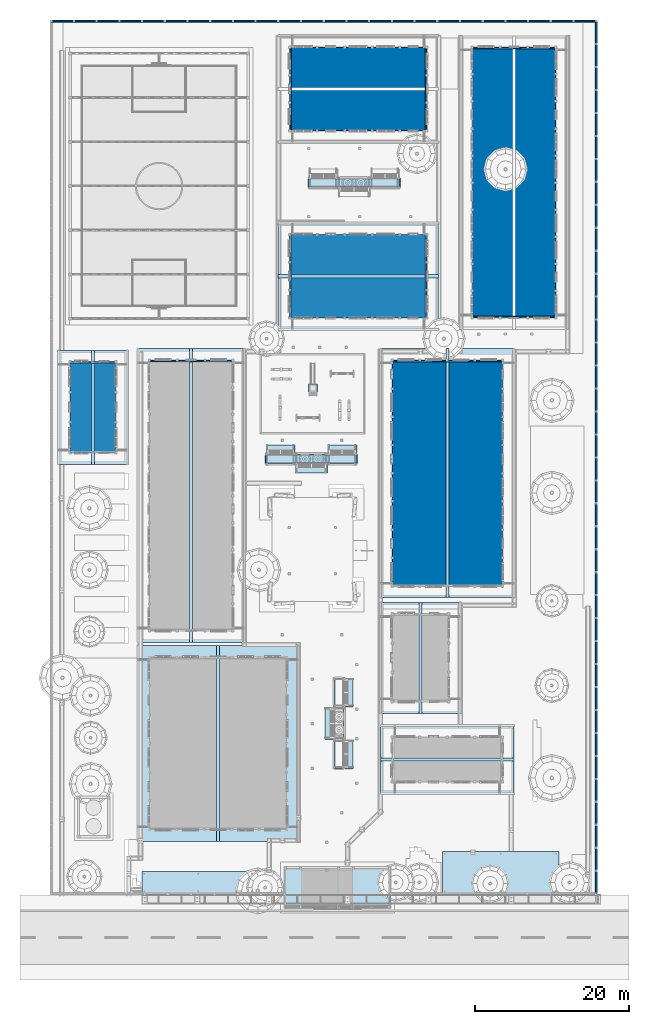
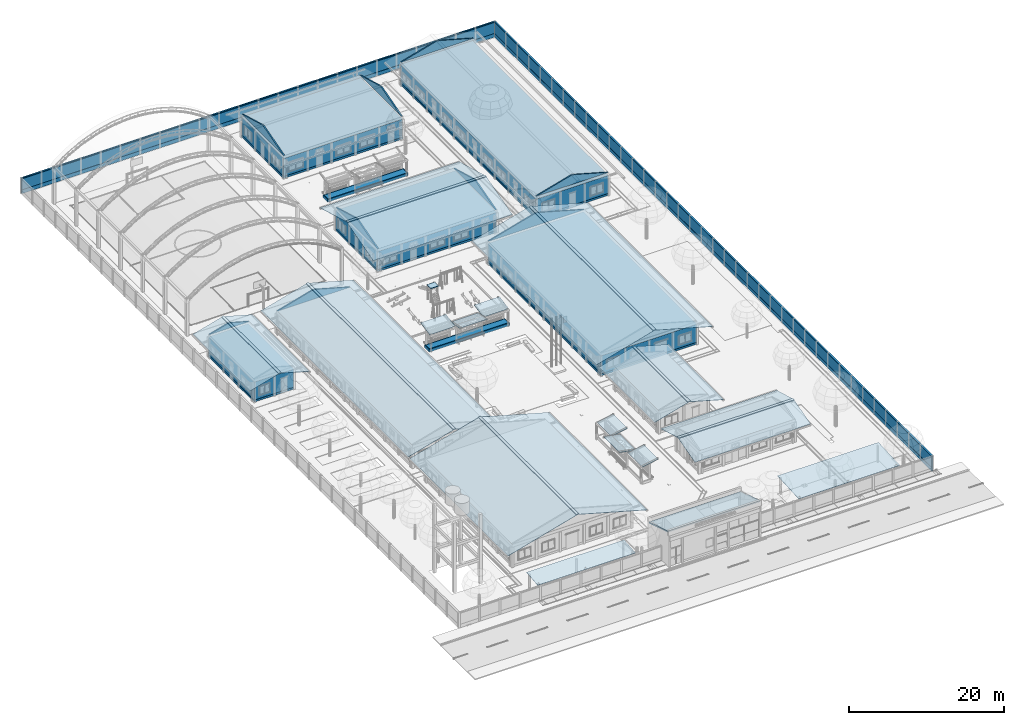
# One storey, part 40 of 177: 29 walls, 24 roofs.
"""IFC4 building model written with IfcOpenShell, lengths in metres."""

import ifcopenshell
import ifcopenshell.guid

model = None  # the IFC model being written
_history = None  # IfcOwnerHistory: only IFC2X3 demands one
_inside = {}  # id of a spatial element -> (the spatial element, [elements in it])
_under = {}  # id of a project, library or spatial element -> (it, [spatial elements below it])
_declared = {}  # id of a project -> (the project, [libraries it declares])
_typed = {}  # id of a type object -> (the type object, [elements of that type])
_made_of = {}  # id of a material, layer set ... -> (it, [elements and type objects made of it])


def new_model(schema):
    """Start an empty IFC model of exactly this schema.

    Asked for "IFC4X3", IfcOpenShell would pick the latest addendum, in which some entities
    have other attributes; the version numbers below select the first issue.
    IFC2X3 requires an IfcOwnerHistory on every rooted entity: one is made here for all.
    """
    global model, _history
    if schema == "IFC4X3":
        model = ifcopenshell.file(schema_version=(4, 3, 0, 0))
    else:
        model = ifcopenshell.file(schema=schema)
    _inside.clear()
    _under.clear()
    _declared.clear()
    _typed.clear()
    _made_of.clear()
    _history = None
    if model.schema == "IFC2X3":
        org = make("IfcOrganization", Name="unknown")
        user = make(
            "IfcPersonAndOrganization",
            ThePerson=make("IfcPerson", FamilyName="unknown"),
            TheOrganization=org,
        )
        app = make(
            "IfcApplication",
            ApplicationDeveloper=org,
            Version="unknown",
            ApplicationFullName="unknown",
            ApplicationIdentifier="unknown",
        )
        _history = make(
            "IfcOwnerHistory",
            OwningUser=user,
            OwningApplication=app,
            ChangeAction="ADDED",
            CreationDate=0,
        )
    return model


def make(cls, **values):
    """One entity of the class cls with the attributes given. An attribute that is None is left unset."""
    return model.create_entity(
        cls, **{name: value for name, value in values.items() if value is not None}
    )


def rooted(cls, **values):
    """An entity with a GlobalId (a new one), such as an element, a storey or a relation."""
    return make(cls, GlobalId=ifcopenshell.guid.new(), OwnerHistory=_history, **values)


def si_unit(unit_type, name, prefix=None):
    """IfcSIUnit, for example si_unit("LENGTHUNIT", "METRE", prefix="MILLI")."""
    return make("IfcSIUnit", UnitType=unit_type, Prefix=prefix, Name=name)


def assignment(units):
    """IfcUnitAssignment: the units of a project."""
    return None if units is None else make("IfcUnitAssignment", Units=units)


def point(xyz):
    """IfcCartesianPoint."""
    return None if xyz is None else make("IfcCartesianPoint", Coordinates=xyz)


def direction(xyz):
    """IfcDirection."""
    return None if xyz is None else make("IfcDirection", DirectionRatios=xyz)


def frame(location, z_axis=None, x_axis=None):
    """IfcAxis2Placement3D, a coordinate frame: its origin and axes. An axis left out is left unset."""
    return make(
        "IfcAxis2Placement3D",
        Location=point(location),
        Axis=direction(z_axis),
        RefDirection=direction(x_axis),
    )


def origin():
    """The frame at (0, 0, 0) with its axes left unset."""
    return frame((0.0, 0.0, 0.0))


def origin_with_axes():
    """The frame at (0, 0, 0) with the z axis (0, 0, 1) and the x axis (1, 0, 0) written out."""
    return frame((0.0, 0.0, 0.0), z_axis=(0.0, 0.0, 1.0), x_axis=(1.0, 0.0, 0.0))


def place(relative_to, where):
    """IfcLocalPlacement: puts the frame where relative to a parent placement (None: the world)."""
    return make(
        "IfcLocalPlacement", PlacementRelTo=relative_to, RelativePlacement=where
    )


def context(
    kind, dimensions, precision=None, world=None, true_north=None, identifier=None
):
    """IfcGeometricRepresentationContext, for example the 3D "Model" context."""
    return make(
        "IfcGeometricRepresentationContext",
        ContextIdentifier=identifier,
        ContextType=kind,
        CoordinateSpaceDimension=dimensions,
        Precision=precision,
        WorldCoordinateSystem=world,
        TrueNorth=true_north,
    )


def subcontext(parent, identifier, kind, view, scale=None):
    """IfcGeometricRepresentationSubContext, for example "Body" below "Model"."""
    return make(
        "IfcGeometricRepresentationSubContext",
        ContextIdentifier=identifier,
        ContextType=kind,
        ParentContext=parent,
        TargetScale=scale,
        TargetView=view,
    )


def project(units=None, contexts=None):
    """IfcProject with its units and contexts."""
    return rooted(
        "IfcProject",
        Name="project",
        RepresentationContexts=contexts,
        UnitsInContext=assignment(units),
    )


def spatial(cls, under=None, at=None, **own):
    """A site, building, storey or space (cls), placed at a placement, below another one or the project."""
    s = rooted(cls, ObjectPlacement=at, **own)
    if under is not None:
        _under.setdefault(under.id(), (under, []))[1].append(s)
    return s


def point_list(points):
    """IfcCartesianPointList2D or 3D."""
    cls = (
        "IfcCartesianPointList2D" if len(points[0]) == 2 else "IfcCartesianPointList3D"
    )
    return make(cls, CoordList=points)


def triangles(points, corners, closed=None, point_numbers=None):
    """IfcTriangulatedFaceSet: each triangle names its three corners, points numbered from 1."""
    return make(
        "IfcTriangulatedFaceSet",
        Coordinates=point_list(points),
        Closed=closed,
        CoordIndex=corners,
        PnIndex=point_numbers,
    )


def shape(context_of_items, identifier, shape_type, items):
    """IfcShapeRepresentation: the items that make up one representation, for example the "Body"."""
    return make(
        "IfcShapeRepresentation",
        ContextOfItems=context_of_items,
        RepresentationIdentifier=identifier,
        RepresentationType=shape_type,
        Items=items,
    )


def made_of(thing, what):
    """Note that an element or type object is made of a material, layer set ...; save() writes the relation."""
    if what is not None:
        _made_of.setdefault(what.id(), (what, []))[1].append(thing)
    return thing


def element(
    cls,
    number,
    at=None,
    inside=None,
    cuts=None,
    type_object=None,
    material=None,
    context=None,
    identifier="Body",
    shape_type=None,
    held_by="IfcProductDefinitionShape",
    body=None,
    shapes=None,
    **own,
):
    """One element of the class cls, such as IfcWall. Its Tag is "e" and its number.

    at: its placement. inside: the storey or other place that contains it. cuts: it is an
    opening in that element (IfcRelVoidsElement). A single representation is given by context,
    identifier, shape_type and body (its items); several are given by shapes. held_by: the class
    of the entity that holds the representations. save() writes the other relations.
    """
    e = rooted(cls, Tag="e%d" % number, ObjectPlacement=at, **own)
    if body is not None:
        shapes = [shape(context, identifier, shape_type, body)]
    if shapes is not None:
        e.Representation = make(held_by, Representations=shapes)
    if inside is not None:
        _inside.setdefault(inside.id(), (inside, []))[1].append(e)
    if cuts is not None:
        rooted(
            "IfcRelVoidsElement", RelatingBuildingElement=cuts, RelatedOpeningElement=e
        )
    if type_object is not None:
        _typed.setdefault(type_object.id(), (type_object, []))[1].append(e)
    return made_of(e, material)


def aggregate(whole, parts):
    """IfcRelAggregates: a whole, such as a stair, and the parts it consists of."""
    return rooted("IfcRelAggregates", RelatingObject=whole, RelatedObjects=parts)


def save(model, path):
    """Write the relations noted so far, then the file.

    IfcRelAggregates (storeys below a building ...), IfcRelContainedInSpatialStructure (elements
    in a storey), IfcRelDefinesByType, IfcRelAssociatesMaterial and IfcRelDeclares: one each for
    every whole, place, type object, material and project.
    """
    for whole, parts in _under.values():
        aggregate(whole, parts)
    for where, things in _inside.values():
        rooted(
            "IfcRelContainedInSpatialStructure",
            RelatedElements=things,
            RelatingStructure=where,
        )
    for kind, things in _typed.values():
        rooted("IfcRelDefinesByType", RelatedObjects=things, RelatingType=kind)
    for what, things in _made_of.values():
        rooted("IfcRelAssociatesMaterial", RelatedObjects=things, RelatingMaterial=what)
    for by, libraries in _declared.values():
        rooted("IfcRelDeclares", RelatingContext=by, RelatedDefinitions=libraries)
    model.write(path)


model = new_model("IFC4")

# Units and contexts
model_context = context("Model", 3, precision=1e-05, world=origin_with_axes())
body_context = subcontext(model_context, "Body", "Model", "MODEL_VIEW")
ifc_project = project(units=[si_unit("LENGTHUNIT", "METRE"), si_unit("AREAUNIT", "SQUARE_METRE"), si_unit("VOLUMEUNIT", "CUBIC_METRE"), si_unit("PLANEANGLEUNIT", "RADIAN")], contexts=[model_context])

# Site, building, storey
site_placement = place(None, origin_with_axes())
site = spatial("IfcSite", under=ifc_project, at=site_placement, Name="Predio Los Mangos - Morales, San Martín", CompositionType="ELEMENT")
building_placement = place(site_placement, origin())
building = spatial("IfcBuilding", under=site, at=building_placement, Name="Hogar de Refugio Temporal", CompositionType="ELEMENT")
storey_placement = place(building_placement, origin())
storey = spatial("IfcBuildingStorey", under=building, at=storey_placement, Name="NIVEL 1 (NPT +0.00)", CompositionType="ELEMENT", Elevation=0.0)

# Walls
wall_1_placement = place(storey_placement, origin())
element("IfcWall", 1, at=wall_1_placement, inside=storey, Name="E-04_hastial", ObjectType="Muro", PredefinedType="NOTDEFINED", context=body_context, shape_type="Tessellation", body=[
    triangles([(13.8, 87.2, 3.75), (19.2, 87.2, 5.262), (24.6, 87.2, 3.75), (13.8, 87.0, 3.75), (19.2, 87.0, 5.262), (24.6, 87.0, 3.75)], [[1, 2, 3], [4, 6, 5], [1, 4, 5], [1, 5, 2], [2, 5, 6], [2, 6, 3], [1, 3, 6], [1, 6, 4]]),
])
wall_2_placement = place(storey_placement, origin())
element("IfcWall", 2, at=wall_2_placement, inside=storey, Name="E-05_muro", ObjectType="Muro", PredefinedType="NOTDEFINED", context=body_context, shape_type="Tessellation", body=[
    triangles([(45.3, 57.9, 0.15), (59.6, 57.9, 0.15), (59.6, 87.2, 0.15), (45.3, 87.2, 0.15), (45.3, 57.9, 3.3), (59.6, 57.9, 3.3), (59.6, 87.2, 3.3), (45.3, 87.2, 3.3)], [[1, 4, 3], [1, 3, 2], [5, 6, 7], [5, 7, 8], [1, 2, 6], [1, 6, 5], [2, 3, 7], [2, 7, 6], [3, 4, 8], [3, 8, 7], [4, 1, 5], [4, 5, 8]]),
])
wall_3_placement = place(storey_placement, origin())
element("IfcWall", 3, at=wall_3_placement, inside=storey, Name="E-05_zocalo", ObjectType="Muro", PredefinedType="NOTDEFINED", context=body_context, shape_type="Tessellation", body=[
    triangles([(45.28, 57.88, 0.15), (59.62, 57.88, 0.15), (59.62, 87.22, 0.15), (45.28, 87.22, 0.15), (45.28, 57.88, 0.45), (59.62, 57.88, 0.45), (59.62, 87.22, 0.45), (45.28, 87.22, 0.45)], [[1, 4, 3], [1, 3, 2], [5, 6, 7], [5, 7, 8], [1, 2, 6], [1, 6, 5], [2, 3, 7], [2, 7, 6], [3, 4, 8], [3, 8, 7], [4, 1, 5], [4, 5, 8]]),
])
wall_4_placement = place(storey_placement, origin())
element("IfcWall", 4, at=wall_4_placement, inside=storey, Name="E-05_hastial", ObjectType="Muro", PredefinedType="NOTDEFINED", context=body_context, shape_type="Tessellation", body=[
    triangles([(45.3, 87.2, 3.75), (52.45, 87.2, 5.752), (59.6, 87.2, 3.75), (45.3, 87.0, 3.75), (52.45, 87.0, 5.752), (59.6, 87.0, 3.75)], [[1, 2, 3], [4, 6, 5], [1, 4, 5], [1, 5, 2], [2, 5, 6], [2, 6, 3], [1, 3, 6], [1, 6, 4]]),
])
wall_5_placement = place(storey_placement, origin())
element("IfcWall", 5, at=wall_5_placement, inside=storey, Name="E-06_muro", ObjectType="Muro", PredefinedType="NOTDEFINED", context=body_context, shape_type="Tessellation", body=[
    triangles([(32.0, 92.7, 0.15), (49.8, 92.7, 0.15), (49.8, 103.5, 0.15), (32.0, 103.5, 0.15), (32.0, 92.7, 3.3), (49.8, 92.7, 3.3), (49.8, 103.5, 3.3), (32.0, 103.5, 3.3)], [[1, 4, 3], [1, 3, 2], [5, 6, 7], [5, 7, 8], [1, 2, 6], [1, 6, 5], [2, 3, 7], [2, 7, 6], [3, 4, 8], [3, 8, 7], [4, 1, 5], [4, 5, 8]]),
])
wall_6_placement = place(storey_placement, origin())
element("IfcWall", 6, at=wall_6_placement, inside=storey, Name="E-06_zocalo", ObjectType="Muro", PredefinedType="NOTDEFINED", context=body_context, shape_type="Tessellation", body=[
    triangles([(31.98, 92.68, 0.15), (49.82, 92.68, 0.15), (49.82, 103.52, 0.15), (31.98, 103.52, 0.15), (31.98, 92.68, 0.45), (49.82, 92.68, 0.45), (49.82, 103.52, 0.45), (31.98, 103.52, 0.45)], [[1, 4, 3], [1, 3, 2], [5, 6, 7], [5, 7, 8], [1, 2, 6], [1, 6, 5], [2, 3, 7], [2, 7, 6], [3, 4, 8], [3, 8, 7], [4, 1, 5], [4, 5, 8]]),
])
wall_7_placement = place(storey_placement, origin())
element("IfcWall", 7, at=wall_7_placement, inside=storey, Name="E-06_hastial", ObjectType="Muro", PredefinedType="NOTDEFINED", context=body_context, shape_type="Tessellation", body=[
    triangles([(32.0, 92.7, 3.75), (32.0, 98.1, 5.262), (32.0, 103.5, 3.75), (32.2, 92.7, 3.75), (32.2, 98.1, 5.262), (32.2, 103.5, 3.75)], [[1, 2, 3], [4, 6, 5], [1, 4, 5], [1, 5, 2], [2, 5, 6], [2, 6, 3], [1, 3, 6], [1, 6, 4]]),
])
wall_8_placement = place(storey_placement, origin())
element("IfcWall", 8, at=wall_8_placement, inside=storey, Name="E-06_hastial", ObjectType="Muro", PredefinedType="NOTDEFINED", context=body_context, shape_type="Tessellation", body=[
    triangles([(49.8, 92.7, 3.75), (49.8, 98.1, 5.262), (49.8, 103.5, 3.75), (49.6, 92.7, 3.75), (49.6, 98.1, 5.262), (49.6, 103.5, 3.75)], [[1, 2, 3], [4, 6, 5], [1, 4, 5], [1, 5, 2], [2, 5, 6], [2, 6, 3], [1, 3, 6], [1, 6, 4]]),
])
wall_9_placement = place(storey_placement, origin())
element("IfcWall", 9, at=wall_9_placement, inside=storey, Name="E-08_muro", ObjectType="Muro", PredefinedType="NOTDEFINED", context=body_context, shape_type="Tessellation", body=[
    triangles([(32.0, 117.0, 0.15), (49.8, 117.0, 0.15), (49.8, 127.8, 0.15), (32.0, 127.8, 0.15), (32.0, 117.0, 3.3), (49.8, 117.0, 3.3), (49.8, 127.8, 3.3), (32.0, 127.8, 3.3)], [[1, 4, 3], [1, 3, 2], [5, 6, 7], [5, 7, 8], [1, 2, 6], [1, 6, 5], [2, 3, 7], [2, 7, 6], [3, 4, 8], [3, 8, 7], [4, 1, 5], [4, 5, 8]]),
])
wall_10_placement = place(storey_placement, origin())
element("IfcWall", 10, at=wall_10_placement, inside=storey, Name="E-08_zocalo", ObjectType="Muro", PredefinedType="NOTDEFINED", context=body_context, shape_type="Tessellation", body=[
    triangles([(31.98, 116.98, 0.15), (49.82, 116.98, 0.15), (49.82, 127.82, 0.15), (31.98, 127.82, 0.15), (31.98, 116.98, 0.45), (49.82, 116.98, 0.45), (49.82, 127.82, 0.45), (31.98, 127.82, 0.45)], [[1, 4, 3], [1, 3, 2], [5, 6, 7], [5, 7, 8], [1, 2, 6], [1, 6, 5], [2, 3, 7], [2, 7, 6], [3, 4, 8], [3, 8, 7], [4, 1, 5], [4, 5, 8]]),
])
wall_11_placement = place(storey_placement, origin())
element("IfcWall", 11, at=wall_11_placement, inside=storey, Name="E-08_hastial", ObjectType="Muro", PredefinedType="NOTDEFINED", context=body_context, shape_type="Tessellation", body=[
    triangles([(32.0, 117.0, 3.75), (32.0, 122.4, 5.262), (32.0, 127.8, 3.75), (32.2, 117.0, 3.75), (32.2, 122.4, 5.262), (32.2, 127.8, 3.75)], [[1, 2, 3], [4, 6, 5], [1, 4, 5], [1, 5, 2], [2, 5, 6], [2, 6, 3], [1, 3, 6], [1, 6, 4]]),
])
wall_12_placement = place(storey_placement, origin())
element("IfcWall", 12, at=wall_12_placement, inside=storey, Name="E-08_hastial", ObjectType="Muro", PredefinedType="NOTDEFINED", context=body_context, shape_type="Tessellation", body=[
    triangles([(49.8, 117.0, 3.75), (49.8, 122.4, 5.262), (49.8, 127.8, 3.75), (49.6, 117.0, 3.75), (49.6, 122.4, 5.262), (49.6, 127.8, 3.75)], [[1, 2, 3], [4, 6, 5], [1, 4, 5], [1, 5, 2], [2, 5, 6], [2, 6, 3], [1, 3, 6], [1, 6, 4]]),
])
wall_13_placement = place(storey_placement, origin())
element("IfcWall", 13, at=wall_13_placement, inside=storey, Name="E-07_muro", ObjectType="Muro", PredefinedType="NOTDEFINED", context=body_context, shape_type="Tessellation", body=[
    triangles([(55.7, 92.7, 0.15), (66.5, 92.7, 0.15), (66.5, 127.8, 0.15), (55.7, 127.8, 0.15), (55.7, 92.7, 3.3), (66.5, 92.7, 3.3), (66.5, 127.8, 3.3), (55.7, 127.8, 3.3)], [[1, 4, 3], [1, 3, 2], [5, 6, 7], [5, 7, 8], [1, 2, 6], [1, 6, 5], [2, 3, 7], [2, 7, 6], [3, 4, 8], [3, 8, 7], [4, 1, 5], [4, 5, 8]]),
])
wall_14_placement = place(storey_placement, origin())
element("IfcWall", 14, at=wall_14_placement, inside=storey, Name="E-07_zocalo", ObjectType="Muro", PredefinedType="NOTDEFINED", context=body_context, shape_type="Tessellation", body=[
    triangles([(55.68, 92.68, 0.15), (66.52, 92.68, 0.15), (66.52, 127.82, 0.15), (55.68, 127.82, 0.15), (55.68, 92.68, 0.45), (66.52, 92.68, 0.45), (66.52, 127.82, 0.45), (55.68, 127.82, 0.45)], [[1, 4, 3], [1, 3, 2], [5, 6, 7], [5, 7, 8], [1, 2, 6], [1, 6, 5], [2, 3, 7], [2, 7, 6], [3, 4, 8], [3, 8, 7], [4, 1, 5], [4, 5, 8]]),
])
wall_15_placement = place(storey_placement, origin())
element("IfcWall", 15, at=wall_15_placement, inside=storey, Name="E-07_hastial", ObjectType="Muro", PredefinedType="NOTDEFINED", context=body_context, shape_type="Tessellation", body=[
    triangles([(55.7, 92.7, 3.75), (61.1, 92.7, 5.262), (66.5, 92.7, 3.75), (55.7, 92.9, 3.75), (61.1, 92.9, 5.262), (66.5, 92.9, 3.75)], [[1, 2, 3], [4, 6, 5], [1, 4, 5], [1, 5, 2], [2, 5, 6], [2, 6, 3], [1, 3, 6], [1, 6, 4]]),
])
wall_16_placement = place(storey_placement, origin())
element("IfcWall", 16, at=wall_16_placement, inside=storey, Name="E-07_hastial", ObjectType="Muro", PredefinedType="NOTDEFINED", context=body_context, shape_type="Tessellation", body=[
    triangles([(55.7, 127.8, 3.75), (61.1, 127.8, 5.262), (66.5, 127.8, 3.75), (55.7, 127.6, 3.75), (61.1, 127.6, 5.262), (66.5, 127.6, 3.75)], [[1, 2, 3], [4, 6, 5], [1, 4, 5], [1, 5, 2], [2, 5, 6], [2, 6, 3], [1, 3, 6], [1, 6, 4]]),
])
wall_17_placement = place(storey_placement, origin())
element("IfcWall", 17, at=wall_17_placement, inside=storey, Name="E-09_muro", ObjectType="Muro", PredefinedType="NOTDEFINED", context=body_context, shape_type="Tessellation", body=[
    triangles([(3.5, 75.2, 0.15), (9.4, 75.2, 0.15), (9.4, 87.0, 0.15), (3.5, 87.0, 0.15), (3.5, 75.2, 3.3), (9.4, 75.2, 3.3), (9.4, 87.0, 3.3), (3.5, 87.0, 3.3)], [[1, 4, 3], [1, 3, 2], [5, 6, 7], [5, 7, 8], [1, 2, 6], [1, 6, 5], [2, 3, 7], [2, 7, 6], [3, 4, 8], [3, 8, 7], [4, 1, 5], [4, 5, 8]]),
])
wall_18_placement = place(storey_placement, origin())
element("IfcWall", 18, at=wall_18_placement, inside=storey, Name="E-09_zocalo", ObjectType="Muro", PredefinedType="NOTDEFINED", context=body_context, shape_type="Tessellation", body=[
    triangles([(3.48, 75.18, 0.15), (9.42, 75.18, 0.15), (9.42, 87.02, 0.15), (3.48, 87.02, 0.15), (3.48, 75.18, 0.45), (9.42, 75.18, 0.45), (9.42, 87.02, 0.45), (3.48, 87.02, 0.45)], [[1, 4, 3], [1, 3, 2], [5, 6, 7], [5, 7, 8], [1, 2, 6], [1, 6, 5], [2, 3, 7], [2, 7, 6], [3, 4, 8], [3, 8, 7], [4, 1, 5], [4, 5, 8]]),
])
wall_19_placement = place(storey_placement, origin())
element("IfcWall", 19, at=wall_19_placement, inside=storey, Name="E-09_hastial", ObjectType="Muro", PredefinedType="NOTDEFINED", context=body_context, shape_type="Tessellation", body=[
    triangles([(3.5, 87.0, 3.75), (6.45, 87.0, 4.576), (9.4, 87.0, 3.75), (3.5, 86.8, 3.75), (6.45, 86.8, 4.576), (9.4, 86.8, 3.75)], [[1, 2, 3], [4, 6, 5], [1, 4, 5], [1, 5, 2], [2, 5, 6], [2, 6, 3], [1, 3, 6], [1, 6, 4]]),
])
wall_20_placement = place(storey_placement, origin())
element("IfcWall", 20, at=wall_20_placement, inside=storey, Name="cerco_muro", ObjectType="Muro", PredefinedType="NOTDEFINED", context=body_context, shape_type="Tessellation", body=[
    triangles([(71.835, 18.0, 0.0), (71.835, 131.21, 0.0), (71.685, 131.21, 0.0), (71.685, 18.0, 0.0), (71.835, 18.0, 2.4), (71.835, 131.21, 2.4), (71.685, 131.21, 2.4), (71.685, 18.0, 2.4)], [[1, 4, 3], [1, 3, 2], [5, 6, 7], [5, 7, 8], [1, 2, 6], [1, 6, 5], [2, 3, 7], [2, 7, 6], [3, 4, 8], [3, 8, 7], [4, 1, 5], [4, 5, 8]]),
])
wall_21_placement = place(storey_placement, origin())
element("IfcWall", 21, at=wall_21_placement, inside=storey, Name="cerco_zocalo", ObjectType="Muro", PredefinedType="NOTDEFINED", context=body_context, shape_type="Tessellation", body=[
    triangles([(71.845, 18.0, 0.0), (71.845, 131.21, 0.0), (71.675, 131.21, 0.0), (71.675, 18.0, 0.0), (71.845, 18.0, 0.6), (71.845, 131.21, 0.6), (71.675, 131.21, 0.6), (71.675, 18.0, 0.6)], [[1, 4, 3], [1, 3, 2], [5, 6, 7], [5, 7, 8], [1, 2, 6], [1, 6, 5], [2, 3, 7], [2, 7, 6], [3, 4, 8], [3, 8, 7], [4, 1, 5], [4, 5, 8]]),
])
wall_22_placement = place(storey_placement, origin())
element("IfcWall", 22, at=wall_22_placement, inside=storey, Name="cerco_remate", ObjectType="Muro", PredefinedType="NOTDEFINED", context=body_context, shape_type="Tessellation", body=[
    triangles([(71.885, 18.0, 2.4), (71.885, 131.21, 2.4), (71.635, 131.21, 2.4), (71.635, 18.0, 2.4), (71.885, 18.0, 2.46), (71.885, 131.21, 2.46), (71.635, 131.21, 2.46), (71.635, 18.0, 2.46)], [[1, 4, 3], [1, 3, 2], [5, 6, 7], [5, 7, 8], [1, 2, 6], [1, 6, 5], [2, 3, 7], [2, 7, 6], [3, 4, 8], [3, 8, 7], [4, 1, 5], [4, 5, 8]]),
])
wall_23_placement = place(storey_placement, origin())
element("IfcWall", 23, at=wall_23_placement, inside=storey, Name="cerco_muro", ObjectType="Muro", PredefinedType="NOTDEFINED", context=body_context, shape_type="Tessellation", body=[
    triangles([(71.76, 131.285, 0.0), (1.05, 131.285, 0.0), (1.05, 131.135, 0.0), (71.76, 131.135, 0.0), (71.76, 131.285, 2.4), (1.05, 131.285, 2.4), (1.05, 131.135, 2.4), (71.76, 131.135, 2.4)], [[1, 4, 3], [1, 3, 2], [5, 6, 7], [5, 7, 8], [1, 2, 6], [1, 6, 5], [2, 3, 7], [2, 7, 6], [3, 4, 8], [3, 8, 7], [4, 1, 5], [4, 5, 8]]),
])
wall_24_placement = place(storey_placement, origin())
element("IfcWall", 24, at=wall_24_placement, inside=storey, Name="cerco_zocalo", ObjectType="Muro", PredefinedType="NOTDEFINED", context=body_context, shape_type="Tessellation", body=[
    triangles([(71.76, 131.295, 0.0), (1.05, 131.295, 0.0), (1.05, 131.125, 0.0), (71.76, 131.125, 0.0), (71.76, 131.295, 0.6), (1.05, 131.295, 0.6), (1.05, 131.125, 0.6), (71.76, 131.125, 0.6)], [[1, 4, 3], [1, 3, 2], [5, 6, 7], [5, 7, 8], [1, 2, 6], [1, 6, 5], [2, 3, 7], [2, 7, 6], [3, 4, 8], [3, 8, 7], [4, 1, 5], [4, 5, 8]]),
])
wall_25_placement = place(storey_placement, origin())
element("IfcWall", 25, at=wall_25_placement, inside=storey, Name="cerco_remate", ObjectType="Muro", PredefinedType="NOTDEFINED", context=body_context, shape_type="Tessellation", body=[
    triangles([(71.76, 131.335, 2.4), (1.05, 131.335, 2.4), (1.05, 131.085, 2.4), (71.76, 131.085, 2.4), (71.76, 131.335, 2.46), (1.05, 131.335, 2.46), (1.05, 131.085, 2.46), (71.76, 131.085, 2.46)], [[1, 4, 3], [1, 3, 2], [5, 6, 7], [5, 7, 8], [1, 2, 6], [1, 6, 5], [2, 3, 7], [2, 7, 6], [3, 4, 8], [3, 8, 7], [4, 1, 5], [4, 5, 8]]),
])
wall_26_placement = place(storey_placement, origin())
element("IfcWall", 26, at=wall_26_placement, inside=storey, Name="jardinera", ObjectType="Muro", PredefinedType="NOTDEFINED", context=body_context, shape_type="Tessellation", body=[
    triangles([(40.795, 75.0, 0.0), (28.805, 75.0, 0.0), (28.805, 73.8, 0.0), (40.795, 73.8, 0.0), (40.795, 75.0, 0.45), (28.805, 75.0, 0.45), (28.805, 73.8, 0.45), (40.795, 73.8, 0.45)], [[1, 4, 3], [1, 3, 2], [5, 6, 7], [5, 7, 8], [1, 2, 6], [1, 6, 5], [2, 3, 7], [2, 7, 6], [3, 4, 8], [3, 8, 7], [4, 1, 5], [4, 5, 8]]),
])
wall_27_placement = place(storey_placement, origin())
element("IfcWall", 27, at=wall_27_placement, inside=storey, Name="jardinera_tierra", ObjectType="Muro", PredefinedType="NOTDEFINED", context=body_context, shape_type="Tessellation", body=[
    triangles([(40.695, 74.9, 0.4), (28.905, 74.9, 0.4), (28.905, 73.9, 0.4), (40.695, 73.9, 0.4), (40.695, 74.9, 0.455), (28.905, 74.9, 0.455), (28.905, 73.9, 0.455), (40.695, 73.9, 0.455)], [[1, 4, 3], [1, 3, 2], [5, 6, 7], [5, 7, 8], [1, 2, 6], [1, 6, 5], [2, 3, 7], [2, 7, 6], [3, 4, 8], [3, 8, 7], [4, 1, 5], [4, 5, 8]]),
])
wall_28_placement = place(storey_placement, origin())
element("IfcWall", 28, at=wall_28_placement, inside=storey, Name="jardinera", ObjectType="Muro", PredefinedType="NOTDEFINED", context=body_context, shape_type="Tessellation", body=[
    triangles([(46.345, 110.85, 0.0), (34.355, 110.85, 0.0), (34.355, 109.65, 0.0), (46.345, 109.65, 0.0), (46.345, 110.85, 0.45), (34.355, 110.85, 0.45), (34.355, 109.65, 0.45), (46.345, 109.65, 0.45)], [[1, 4, 3], [1, 3, 2], [5, 6, 7], [5, 7, 8], [1, 2, 6], [1, 6, 5], [2, 3, 7], [2, 7, 6], [3, 4, 8], [3, 8, 7], [4, 1, 5], [4, 5, 8]]),
])
wall_29_placement = place(storey_placement, origin())
element("IfcWall", 29, at=wall_29_placement, inside=storey, Name="jardinera_tierra", ObjectType="Muro", PredefinedType="NOTDEFINED", context=body_context, shape_type="Tessellation", body=[
    triangles([(46.245, 110.75, 0.4), (34.455, 110.75, 0.4), (34.455, 109.75, 0.4), (46.245, 109.75, 0.4), (46.245, 110.75, 0.455), (34.455, 110.75, 0.455), (34.455, 109.75, 0.455), (46.245, 109.75, 0.455)], [[1, 4, 3], [1, 3, 2], [5, 6, 7], [5, 7, 8], [1, 2, 6], [1, 6, 5], [2, 3, 7], [2, 7, 6], [3, 4, 8], [3, 8, 7], [4, 1, 5], [4, 5, 8]]),
])

# Roofs
roof_1_placement = place(storey_placement, origin())
element("IfcRoof", 30, at=roof_1_placement, inside=storey, Name="E-01_techo", ObjectType="Cobertura", PredefinedType="NOTDEFINED", context=body_context, shape_type="Tessellation", body=[
    triangles([(12.3, 24.8, 3.33), (22.7, 24.8, 6.242), (22.7, 50.2, 6.242), (12.3, 50.2, 3.33), (33.1, 24.8, 3.33), (33.1, 50.2, 3.33), (12.3135, 24.8, 3.2819), (22.7, 24.8, 6.192), (22.7, 50.2, 6.192), (12.3135, 50.2, 3.2819), (33.0865, 24.8, 3.2819), (33.0865, 50.2, 3.2819)], [[1, 2, 3], [1, 3, 4], [2, 5, 6], [2, 6, 3], [7, 10, 9], [7, 9, 8], [8, 9, 12], [8, 12, 11], [1, 4, 10], [1, 10, 7], [2, 1, 7], [2, 7, 8], [4, 3, 9], [4, 9, 10], [5, 2, 8], [5, 8, 11], [6, 5, 11], [6, 11, 12], [3, 6, 12], [3, 12, 9]]),
])
roof_2_placement = place(storey_placement, origin())
element("IfcRoof", 31, at=roof_2_placement, inside=storey, Name="E-01_cumbrera", ObjectType="Cobertura", PredefinedType="NOTDEFINED", context=body_context, shape_type="Tessellation", body=[
    triangles([(22.5, 24.8, 6.222), (22.9, 24.8, 6.222), (22.9, 50.2, 6.222), (22.5, 50.2, 6.222), (22.5, 24.8, 6.302), (22.9, 24.8, 6.302), (22.9, 50.2, 6.302), (22.5, 50.2, 6.302)], [[1, 4, 3], [1, 3, 2], [5, 6, 7], [5, 7, 8], [1, 2, 6], [1, 6, 5], [2, 3, 7], [2, 7, 6], [3, 4, 8], [3, 8, 7], [4, 1, 5], [4, 5, 8]]),
])
roof_3_placement = place(storey_placement, origin())
element("IfcRoof", 32, at=roof_3_placement, inside=storey, Name="E-02_techo", ObjectType="Cobertura", PredefinedType="NOTDEFINED", context=body_context, shape_type="Tessellation", body=[
    triangles([(43.8, 41.4, 3.33), (48.95, 41.4, 4.772), (48.95, 55.8, 4.772), (43.8, 55.8, 3.33), (54.1, 41.4, 3.33), (54.1, 55.8, 3.33), (43.8135, 41.4, 3.2819), (48.95, 41.4, 4.722), (48.95, 55.8, 4.722), (43.8135, 55.8, 3.2819), (54.0865, 41.4, 3.2819), (54.0865, 55.8, 3.2819)], [[1, 2, 3], [1, 3, 4], [2, 5, 6], [2, 6, 3], [7, 10, 9], [7, 9, 8], [8, 9, 12], [8, 12, 11], [1, 4, 10], [1, 10, 7], [2, 1, 7], [2, 7, 8], [4, 3, 9], [4, 9, 10], [5, 2, 8], [5, 8, 11], [6, 5, 11], [6, 11, 12], [3, 6, 12], [3, 12, 9]]),
])
roof_4_placement = place(storey_placement, origin())
element("IfcRoof", 33, at=roof_4_placement, inside=storey, Name="E-02_cumbrera", ObjectType="Cobertura", PredefinedType="NOTDEFINED", context=body_context, shape_type="Tessellation", body=[
    triangles([(48.75, 41.4, 4.752), (49.15, 41.4, 4.752), (49.15, 55.8, 4.752), (48.75, 55.8, 4.752), (48.75, 41.4, 4.832), (49.15, 41.4, 4.832), (49.15, 55.8, 4.832), (48.75, 55.8, 4.832)], [[1, 4, 3], [1, 3, 2], [5, 6, 7], [5, 7, 8], [1, 2, 6], [1, 6, 5], [2, 3, 7], [2, 7, 6], [3, 4, 8], [3, 8, 7], [4, 1, 5], [4, 5, 8]]),
])
roof_5_placement = place(storey_placement, origin())
element("IfcRoof", 34, at=roof_5_placement, inside=storey, Name="E-03_techo", ObjectType="Cobertura", PredefinedType="NOTDEFINED", context=body_context, shape_type="Tessellation", body=[
    triangles([(43.8, 31.0, 3.33), (61.1, 31.0, 3.33), (61.1, 35.4, 4.562), (43.8, 35.4, 4.562), (61.1, 39.8, 3.33), (43.8, 39.8, 3.33), (43.8, 31.0135, 3.2819), (61.1, 31.0135, 3.2819), (61.1, 35.4, 4.512), (43.8, 35.4, 4.512), (61.1, 39.7865, 3.2819), (43.8, 39.7865, 3.2819)], [[1, 2, 3], [1, 3, 4], [4, 3, 5], [4, 5, 6], [7, 10, 9], [7, 9, 8], [10, 12, 11], [10, 11, 9], [1, 4, 10], [1, 10, 7], [2, 1, 7], [2, 7, 8], [3, 2, 8], [3, 8, 9], [4, 6, 12], [4, 12, 10], [5, 3, 9], [5, 9, 11], [6, 5, 11], [6, 11, 12]]),
])
roof_6_placement = place(storey_placement, origin())
element("IfcRoof", 35, at=roof_6_placement, inside=storey, Name="E-03_cumbrera", ObjectType="Cobertura", PredefinedType="NOTDEFINED", context=body_context, shape_type="Tessellation", body=[
    triangles([(43.8, 35.2, 4.542), (61.1, 35.2, 4.542), (61.1, 35.6, 4.542), (43.8, 35.6, 4.542), (43.8, 35.2, 4.622), (61.1, 35.2, 4.622), (61.1, 35.6, 4.622), (43.8, 35.6, 4.622)], [[1, 4, 3], [1, 3, 2], [5, 6, 7], [5, 7, 8], [1, 2, 6], [1, 6, 5], [2, 3, 7], [2, 7, 6], [3, 4, 8], [3, 8, 7], [4, 1, 5], [4, 5, 8]]),
])
roof_7_placement = place(storey_placement, origin())
element("IfcRoof", 36, at=roof_7_placement, inside=storey, Name="E-04_techo", ObjectType="Cobertura", PredefinedType="NOTDEFINED", context=body_context, shape_type="Tessellation", body=[
    triangles([(12.3, 50.6, 3.33), (19.2, 50.6, 5.262), (19.2, 88.7, 5.262), (12.3, 88.7, 3.33), (26.1, 50.6, 3.33), (26.1, 88.7, 3.33), (12.3135, 50.6, 3.2819), (19.2, 50.6, 5.212), (19.2, 88.7, 5.212), (12.3135, 88.7, 3.2819), (26.0865, 50.6, 3.2819), (26.0865, 88.7, 3.2819)], [[1, 2, 3], [1, 3, 4], [2, 5, 6], [2, 6, 3], [7, 10, 9], [7, 9, 8], [8, 9, 12], [8, 12, 11], [1, 4, 10], [1, 10, 7], [2, 1, 7], [2, 7, 8], [4, 3, 9], [4, 9, 10], [5, 2, 8], [5, 8, 11], [6, 5, 11], [6, 11, 12], [3, 6, 12], [3, 12, 9]]),
])
roof_8_placement = place(storey_placement, origin())
element("IfcRoof", 37, at=roof_8_placement, inside=storey, Name="E-04_cumbrera", ObjectType="Cobertura", PredefinedType="NOTDEFINED", context=body_context, shape_type="Tessellation", body=[
    triangles([(19.0, 50.6, 5.242), (19.4, 50.6, 5.242), (19.4, 88.7, 5.242), (19.0, 88.7, 5.242), (19.0, 50.6, 5.322), (19.4, 50.6, 5.322), (19.4, 88.7, 5.322), (19.0, 88.7, 5.322)], [[1, 4, 3], [1, 3, 2], [5, 6, 7], [5, 7, 8], [1, 2, 6], [1, 6, 5], [2, 3, 7], [2, 7, 6], [3, 4, 8], [3, 8, 7], [4, 1, 5], [4, 5, 8]]),
])
roof_9_placement = place(storey_placement, origin())
element("IfcRoof", 38, at=roof_9_placement, inside=storey, Name="E-05_techo", ObjectType="Cobertura", PredefinedType="NOTDEFINED", context=body_context, shape_type="Tessellation", body=[
    triangles([(43.8, 56.4, 3.33), (52.45, 56.4, 5.752), (52.45, 88.7, 5.752), (43.8, 88.7, 3.33), (61.1, 56.4, 3.33), (61.1, 88.7, 3.33), (43.8135, 56.4, 3.2819), (52.45, 56.4, 5.702), (52.45, 88.7, 5.702), (43.8135, 88.7, 3.2819), (61.0865, 56.4, 3.2819), (61.0865, 88.7, 3.2819)], [[1, 2, 3], [1, 3, 4], [2, 5, 6], [2, 6, 3], [7, 10, 9], [7, 9, 8], [8, 9, 12], [8, 12, 11], [1, 4, 10], [1, 10, 7], [2, 1, 7], [2, 7, 8], [4, 3, 9], [4, 9, 10], [5, 2, 8], [5, 8, 11], [6, 5, 11], [6, 11, 12], [3, 6, 12], [3, 12, 9]]),
])
roof_10_placement = place(storey_placement, origin())
element("IfcRoof", 39, at=roof_10_placement, inside=storey, Name="E-05_cumbrera", ObjectType="Cobertura", PredefinedType="NOTDEFINED", context=body_context, shape_type="Tessellation", body=[
    triangles([(52.25, 56.4, 5.732), (52.65, 56.4, 5.732), (52.65, 88.7, 5.732), (52.25, 88.7, 5.732), (52.25, 56.4, 5.812), (52.65, 56.4, 5.812), (52.65, 88.7, 5.812), (52.25, 88.7, 5.812)], [[1, 4, 3], [1, 3, 2], [5, 6, 7], [5, 7, 8], [1, 2, 6], [1, 6, 5], [2, 3, 7], [2, 7, 6], [3, 4, 8], [3, 8, 7], [4, 1, 5], [4, 5, 8]]),
])
roof_11_placement = place(storey_placement, origin())
element("IfcRoof", 40, at=roof_11_placement, inside=storey, Name="E-06_techo", ObjectType="Cobertura", PredefinedType="NOTDEFINED", context=body_context, shape_type="Tessellation", body=[
    triangles([(30.5, 91.2, 3.33), (51.3, 91.2, 3.33), (51.3, 98.1, 5.262), (30.5, 98.1, 5.262), (51.3, 105.0, 3.33), (30.5, 105.0, 3.33), (30.5, 91.2135, 3.2819), (51.3, 91.2135, 3.2819), (51.3, 98.1, 5.212), (30.5, 98.1, 5.212), (51.3, 104.9865, 3.2819), (30.5, 104.9865, 3.2819)], [[1, 2, 3], [1, 3, 4], [4, 3, 5], [4, 5, 6], [7, 10, 9], [7, 9, 8], [10, 12, 11], [10, 11, 9], [1, 4, 10], [1, 10, 7], [2, 1, 7], [2, 7, 8], [3, 2, 8], [3, 8, 9], [4, 6, 12], [4, 12, 10], [5, 3, 9], [5, 9, 11], [6, 5, 11], [6, 11, 12]]),
])
roof_12_placement = place(storey_placement, origin())
element("IfcRoof", 41, at=roof_12_placement, inside=storey, Name="E-06_cumbrera", ObjectType="Cobertura", PredefinedType="NOTDEFINED", context=body_context, shape_type="Tessellation", body=[
    triangles([(30.5, 97.9, 5.242), (51.3, 97.9, 5.242), (51.3, 98.3, 5.242), (30.5, 98.3, 5.242), (30.5, 97.9, 5.322), (51.3, 97.9, 5.322), (51.3, 98.3, 5.322), (30.5, 98.3, 5.322)], [[1, 4, 3], [1, 3, 2], [5, 6, 7], [5, 7, 8], [1, 2, 6], [1, 6, 5], [2, 3, 7], [2, 7, 6], [3, 4, 8], [3, 8, 7], [4, 1, 5], [4, 5, 8]]),
])
roof_13_placement = place(storey_placement, origin())
element("IfcRoof", 42, at=roof_13_placement, inside=storey, Name="E-09_techo", ObjectType="Cobertura", PredefinedType="NOTDEFINED", context=body_context, shape_type="Tessellation", body=[
    triangles([(2.0, 73.7, 3.33), (6.45, 73.7, 4.576), (6.45, 88.5, 4.576), (2.0, 88.5, 3.33), (10.9, 73.7, 3.33), (10.9, 88.5, 3.33), (2.0135, 73.7, 3.2819), (6.45, 73.7, 4.526), (6.45, 88.5, 4.526), (2.0135, 88.5, 3.2819), (10.8865, 73.7, 3.2819), (10.8865, 88.5, 3.2819)], [[1, 2, 3], [1, 3, 4], [2, 5, 6], [2, 6, 3], [7, 10, 9], [7, 9, 8], [8, 9, 12], [8, 12, 11], [1, 4, 10], [1, 10, 7], [2, 1, 7], [2, 7, 8], [4, 3, 9], [4, 9, 10], [5, 2, 8], [5, 8, 11], [6, 5, 11], [6, 11, 12], [3, 6, 12], [3, 12, 9]]),
])
roof_14_placement = place(storey_placement, origin())
element("IfcRoof", 43, at=roof_14_placement, inside=storey, Name="E-09_cumbrera", ObjectType="Cobertura", PredefinedType="NOTDEFINED", context=body_context, shape_type="Tessellation", body=[
    triangles([(6.25, 73.7, 4.556), (6.65, 73.7, 4.556), (6.65, 88.5, 4.556), (6.25, 88.5, 4.556), (6.25, 73.7, 4.636), (6.65, 73.7, 4.636), (6.65, 88.5, 4.636), (6.25, 88.5, 4.636)], [[1, 4, 3], [1, 3, 2], [5, 6, 7], [5, 7, 8], [1, 2, 6], [1, 6, 5], [2, 3, 7], [2, 7, 6], [3, 4, 8], [3, 8, 7], [4, 1, 5], [4, 5, 8]]),
])
roof_15_placement = place(storey_placement, origin())
element("IfcRoof", 44, at=roof_15_placement, inside=storey, Name="oe01_techo", ObjectType="Cobertura", PredefinedType="NOTDEFINED", context=body_context, shape_type="Tessellation", body=[
    triangles([(31.3, 16.4, 5.72), (45.1, 16.4, 5.72), (45.1, 21.3, 4.19), (31.3, 21.3, 4.19), (31.3, 16.3404, 5.5291), (45.1, 16.3404, 5.5291), (45.1, 21.2404, 3.9991), (31.3, 21.2404, 3.9991)], [[1, 2, 3], [1, 3, 4], [5, 8, 7], [5, 7, 6], [1, 4, 8], [1, 8, 5], [2, 1, 5], [2, 5, 6], [3, 2, 6], [3, 6, 7], [4, 3, 7], [4, 7, 8]]),
])
roof_16_placement = place(storey_placement, origin())
element("IfcRoof", 45, at=roof_16_placement, inside=storey, Name="techo_autos", ObjectType="Cobertura", PredefinedType="NOTDEFINED", context=body_context, shape_type="Tessellation", body=[
    triangles([(51.8, 18.0, 2.65), (66.9, 18.0, 2.65), (66.9, 23.5, 2.95), (51.8, 23.5, 2.95), (51.8, 18.0022, 2.6101), (66.9, 18.0022, 2.6101), (66.9, 23.5022, 2.9101), (51.8, 23.5022, 2.9101)], [[1, 2, 3], [1, 3, 4], [5, 8, 7], [5, 7, 6], [1, 4, 8], [1, 8, 5], [2, 1, 5], [2, 5, 6], [3, 2, 6], [3, 6, 7], [4, 3, 7], [4, 7, 8]]),
])
roof_17_placement = place(storey_placement, origin())
element("IfcRoof", 46, at=roof_17_placement, inside=storey, Name="techo_motos", ObjectType="Cobertura", PredefinedType="NOTDEFINED", context=body_context, shape_type="Tessellation", body=[
    triangles([(12.8, 18.0, 2.65), (27.4, 18.0, 2.65), (27.4, 20.9, 2.95), (12.8, 20.9, 2.95), (12.8, 18.0041, 2.6102), (27.4, 18.0041, 2.6102), (27.4, 20.9041, 2.9102), (12.8, 20.9041, 2.9102)], [[1, 2, 3], [1, 3, 4], [5, 8, 7], [5, 7, 6], [1, 4, 8], [1, 8, 5], [2, 1, 5], [2, 5, 6], [3, 2, 6], [3, 6, 7], [4, 3, 7], [4, 7, 8]]),
])
roof_18_placement = place(storey_placement, origin())
element("IfcRoof", 47, at=roof_18_placement, inside=storey, Name="tobogan_techo", ObjectType="Cobertura", PredefinedType="NOTDEFINED", context=body_context, shape_type="Tessellation", body=[
    triangles([(34.435, 83.104, 2.4), (35.585, 83.104, 2.4), (35.585, 84.104, 2.4), (34.435, 84.104, 2.4), (34.435, 83.104, 2.48), (35.585, 83.104, 2.48), (35.585, 84.104, 2.48), (34.435, 84.104, 2.48)], [[1, 4, 3], [1, 3, 2], [5, 6, 7], [5, 7, 8], [1, 2, 6], [1, 6, 5], [2, 3, 7], [2, 7, 6], [3, 4, 8], [3, 8, 7], [4, 1, 5], [4, 5, 8]]),
])
roof_19_placement = place(storey_placement, origin())
element("IfcRoof", 48, at=roof_19_placement, inside=storey, Name="oc01_cobertura_aluzinc", ObjectType="Cobertura", PredefinedType="NOTDEFINED", context=body_context, shape_type="Tessellation", body=[
    triangles([(37.8, 34.205, 2.7), (37.8, 37.995, 2.7), (40.2, 37.995, 3.16), (40.2, 34.205, 3.16), (37.7944, 34.205, 2.7295), (37.7944, 37.995, 2.7295), (40.1944, 37.995, 3.1895), (40.1944, 34.205, 3.1895)], [[1, 2, 3], [1, 3, 4], [5, 8, 7], [5, 7, 6], [1, 4, 8], [1, 8, 5], [2, 1, 5], [2, 5, 6], [3, 2, 6], [3, 6, 7], [4, 3, 7], [4, 7, 8]]),
])
roof_20_placement = place(storey_placement, origin())
element("IfcRoof", 49, at=roof_20_placement, inside=storey, Name="oc01_cobertura_aluzinc", ObjectType="Cobertura", PredefinedType="NOTDEFINED", context=body_context, shape_type="Tessellation", body=[
    triangles([(39.0, 37.995, 2.7), (39.0, 42.205, 2.7), (36.6, 42.205, 3.16), (36.6, 37.995, 3.16), (38.9944, 37.995, 2.6705), (38.9944, 42.205, 2.6705), (36.5944, 42.205, 3.1305), (36.5944, 37.995, 3.1305)], [[1, 2, 3], [1, 3, 4], [5, 8, 7], [5, 7, 6], [1, 4, 8], [1, 8, 5], [2, 1, 5], [2, 5, 6], [3, 2, 6], [3, 6, 7], [4, 3, 7], [4, 7, 8]]),
])
roof_21_placement = place(storey_placement, origin())
element("IfcRoof", 50, at=roof_21_placement, inside=storey, Name="oc01_cobertura_aluzinc", ObjectType="Cobertura", PredefinedType="NOTDEFINED", context=body_context, shape_type="Tessellation", body=[
    triangles([(37.8, 42.205, 2.7), (37.8, 45.995, 2.7), (40.2, 45.995, 3.16), (40.2, 42.205, 3.16), (37.7944, 42.205, 2.7295), (37.7944, 45.995, 2.7295), (40.1944, 45.995, 3.1895), (40.1944, 42.205, 3.1895)], [[1, 2, 3], [1, 3, 4], [5, 8, 7], [5, 7, 6], [1, 4, 8], [1, 8, 5], [2, 1, 5], [2, 5, 6], [3, 2, 6], [3, 6, 7], [4, 3, 7], [4, 7, 8]]),
])
roof_22_placement = place(storey_placement, origin())
element("IfcRoof", 51, at=roof_22_placement, inside=storey, Name="oc01_cobertura_aluzinc", ObjectType="Cobertura", PredefinedType="NOTDEFINED", context=body_context, shape_type="Tessellation", body=[
    triangles([(40.695, 73.8, 2.7), (36.905, 73.8, 2.7), (36.905, 76.2, 3.16), (40.695, 76.2, 3.16), (40.695, 73.7944, 2.7295), (36.905, 73.7944, 2.7295), (36.905, 76.1944, 3.1895), (40.695, 76.1944, 3.1895)], [[1, 2, 3], [1, 3, 4], [5, 8, 7], [5, 7, 6], [1, 4, 8], [1, 8, 5], [2, 1, 5], [2, 5, 6], [3, 2, 6], [3, 6, 7], [4, 3, 7], [4, 7, 8]]),
])
roof_23_placement = place(storey_placement, origin())
element("IfcRoof", 52, at=roof_23_placement, inside=storey, Name="oc01_cobertura_aluzinc", ObjectType="Cobertura", PredefinedType="NOTDEFINED", context=body_context, shape_type="Tessellation", body=[
    triangles([(36.905, 75.0, 2.7), (32.695, 75.0, 2.7), (32.695, 72.6, 3.16), (36.905, 72.6, 3.16), (36.905, 74.9944, 2.6705), (32.695, 74.9944, 2.6705), (32.695, 72.5944, 3.1305), (36.905, 72.5944, 3.1305)], [[1, 2, 3], [1, 3, 4], [5, 8, 7], [5, 7, 6], [1, 4, 8], [1, 8, 5], [2, 1, 5], [2, 5, 6], [3, 2, 6], [3, 6, 7], [4, 3, 7], [4, 7, 8]]),
])
roof_24_placement = place(storey_placement, origin())
element("IfcRoof", 53, at=roof_24_placement, inside=storey, Name="oc01_cobertura_aluzinc", ObjectType="Cobertura", PredefinedType="NOTDEFINED", context=body_context, shape_type="Tessellation", body=[
    triangles([(32.695, 73.8, 2.7), (28.905, 73.8, 2.7), (28.905, 76.2, 3.16), (32.695, 76.2, 3.16), (32.695, 73.7944, 2.7295), (28.905, 73.7944, 2.7295), (28.905, 76.1944, 3.1895), (32.695, 76.1944, 3.1895)], [[1, 2, 3], [1, 3, 4], [5, 8, 7], [5, 7, 6], [1, 4, 8], [1, 8, 5], [2, 1, 5], [2, 5, 6], [3, 2, 6], [3, 6, 7], [4, 3, 7], [4, 7, 8]]),
])

save(model, "model.ifc")
